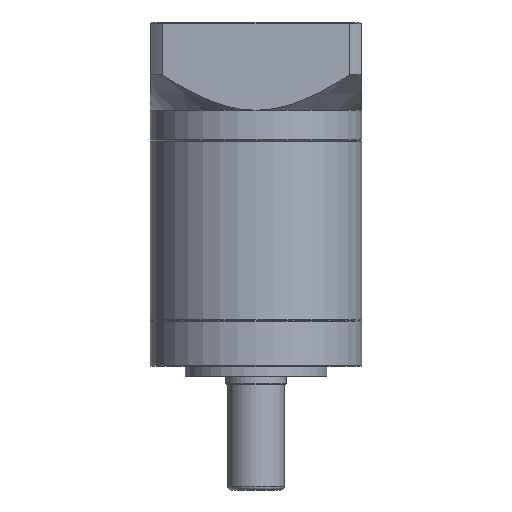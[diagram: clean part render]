
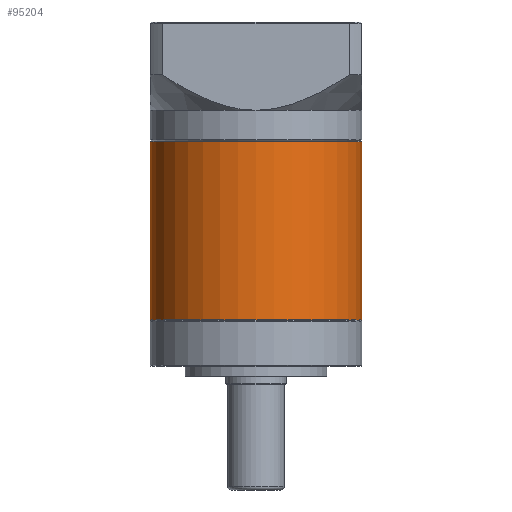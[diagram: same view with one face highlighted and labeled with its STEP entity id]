
A CAD part, front view. The second image highlights one B-rep face of the part: STEP entity #95204.
In plain terms, the highlighted cylindrical face has radius 30 mm (diameter 60 mm), a partial arc.
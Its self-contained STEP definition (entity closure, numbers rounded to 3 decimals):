
#821 = ORIENTED_EDGE ( 'NONE', *, *, #79192, .T. ) ;
#1418 = EDGE_CURVE ( 'NONE', #104180, #6943, #61214, .T. ) ;
#3236 = VECTOR ( 'NONE', #79223, 1000. ) ;
#6943 = VERTEX_POINT ( 'NONE', #67456 ) ;
#11081 = CARTESIAN_POINT ( 'NONE',  ( -92.624, 24.461, -78.394 ) ) ;
#14943 = AXIS2_PLACEMENT_3D ( 'NONE', #68597, #68249, #67892 ) ;
#20972 = DIRECTION ( 'NONE',  ( -1., 0., 0. ) ) ;
#25223 = LINE ( 'NONE', #56601, #3236 ) ;
#27566 = FACE_OUTER_BOUND ( 'NONE', #54396, .T. ) ;
#28839 = VERTEX_POINT ( 'NONE', #70700 ) ;
#32757 = ORIENTED_EDGE ( 'NONE', *, *, #104432, .T. ) ;
#34985 = ORIENTED_EDGE ( 'NONE', *, *, #74433, .F. ) ;
#37123 = AXIS2_PLACEMENT_3D ( 'NONE', #102846, #37207, #20972 ) ;
#37207 = DIRECTION ( 'NONE',  ( 0., 0., -1. ) ) ;
#42031 = DIRECTION ( 'NONE',  ( 0., 0., -1. ) ) ;
#48240 = CARTESIAN_POINT ( 'NONE',  ( -62.624, 24.461, -78.394 ) ) ;
#50365 = CARTESIAN_POINT ( 'NONE',  ( -32.624, 24.461, -27.844 ) ) ;
#52488 = ORIENTED_EDGE ( 'NONE', *, *, #1418, .T. ) ;
#54396 = EDGE_LOOP ( 'NONE', ( #34985, #52488, #821, #32757 ) ) ;
#56601 = CARTESIAN_POINT ( 'NONE',  ( -92.624, 24.461, -27.844 ) ) ;
#56638 = DIRECTION ( 'NONE',  ( 1., 0., 0. ) ) ;
#57702 = AXIS2_PLACEMENT_3D ( 'NONE', #48240, #106213, #56638 ) ;
#61214 = CIRCLE ( 'NONE', #14943, 30. ) ;
#63517 = VECTOR ( 'NONE', #42031, 1000. ) ;
#67456 = CARTESIAN_POINT ( 'NONE',  ( -92.624, 24.461, -28.094 ) ) ;
#67892 = DIRECTION ( 'NONE',  ( 1., 0., 0. ) ) ;
#68249 = DIRECTION ( 'NONE',  ( 0., 0., -1. ) ) ;
#68597 = CARTESIAN_POINT ( 'NONE',  ( -62.624, 24.461, -28.094 ) ) ;
#69505 = CARTESIAN_POINT ( 'NONE',  ( -32.624, 24.461, -28.094 ) ) ;
#70700 = CARTESIAN_POINT ( 'NONE',  ( -32.624, 24.461, -78.394 ) ) ;
#72771 = CIRCLE ( 'NONE', #57702, 30. ) ;
#74433 = EDGE_CURVE ( 'NONE', #104180, #28839, #88216, .T. ) ;
#79192 = EDGE_CURVE ( 'NONE', #6943, #97612, #25223, .T. ) ;
#79223 = DIRECTION ( 'NONE',  ( 0., 0., -1. ) ) ;
#83390 = CYLINDRICAL_SURFACE ( 'NONE', #37123, 30. ) ;
#88216 = LINE ( 'NONE', #50365, #63517 ) ;
#95204 = ADVANCED_FACE ( 'NONE', ( #27566 ), #83390, .T. ) ;
#97612 = VERTEX_POINT ( 'NONE', #11081 ) ;
#102846 = CARTESIAN_POINT ( 'NONE',  ( -62.624, 24.461, -27.844 ) ) ;
#104180 = VERTEX_POINT ( 'NONE', #69505 ) ;
#104432 = EDGE_CURVE ( 'NONE', #97612, #28839, #72771, .T. ) ;
#106213 = DIRECTION ( 'NONE',  ( 0., 0., 1. ) ) ;
